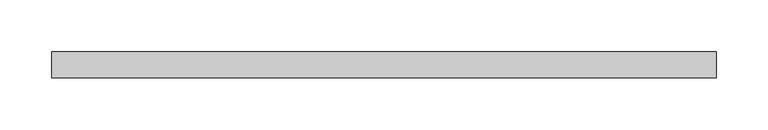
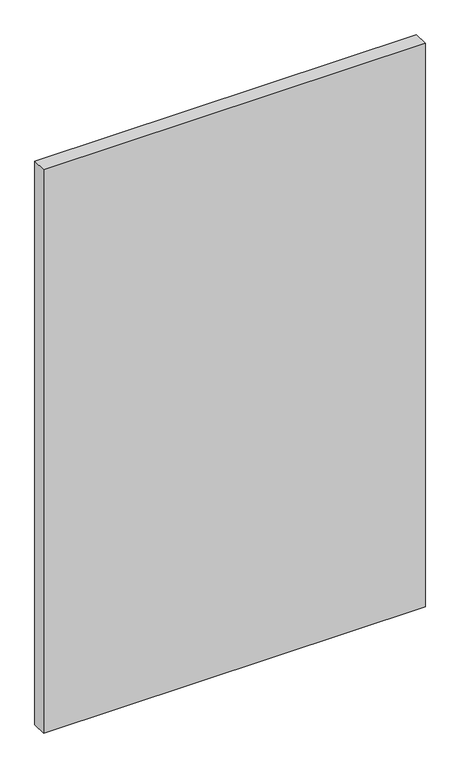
"""IFC4 building model written with IfcOpenShell, lengths in millimetres: plate geometry, システム パネル1 : ガラス."""

from ifc_helpers import new_model, si_unit, origin, origin_with_axes, place, context, project, spatial, polyline, outline, extrude, source, transform, mapped, element, save


def plate_6b8e4332(model_context):
    return source(origin(), model_context, "Body", "SweptSolid", [
        extrude(outline(polyline([(320.8333333, 24.5), (-320.8333333, 24.5), (-320.8333333, 49.5), (320.8333333, 49.5), (320.8333333, 24.5)])), origin_with_axes(), (0.0, 0.0, 1.0), 1000.0),
    ])


if __name__ == "__main__":
    model = new_model("IFC4")
    model_context = context("Model", 3, world=origin())
    ifc_project = project(units=[si_unit("LENGTHUNIT", "METRE", prefix="MILLI")], contexts=[model_context])
    site = spatial("IfcSite", under=ifc_project)
    building = spatial("IfcBuilding", under=site)
    placement = place(None, origin())
    plate_shape = plate_6b8e4332(model_context)
    element("IfcPlate", 1, ObjectType="システム パネル1 : ガラス", at=placement, inside=building, context=model_context, shape_type="MappedRepresentation", body=[
        mapped(plate_shape, transform((0.0, 0.0, 0.0), x_axis=(1.0, 0.0, 0.0), y_axis=(0.0, 1.0, 0.0), z_axis=(0.0, 0.0, 1.0))),
    ])
    save(model, "model.ifc")
